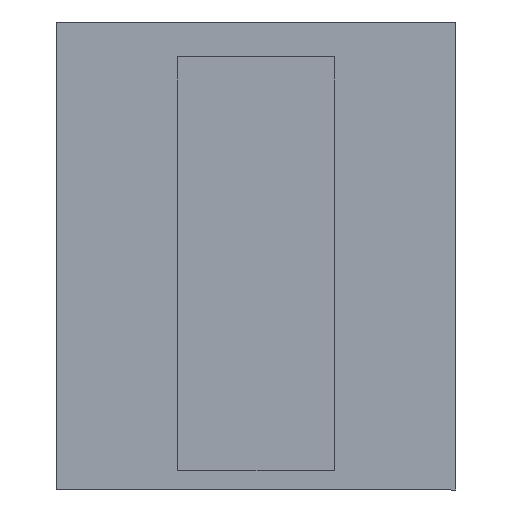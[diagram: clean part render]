
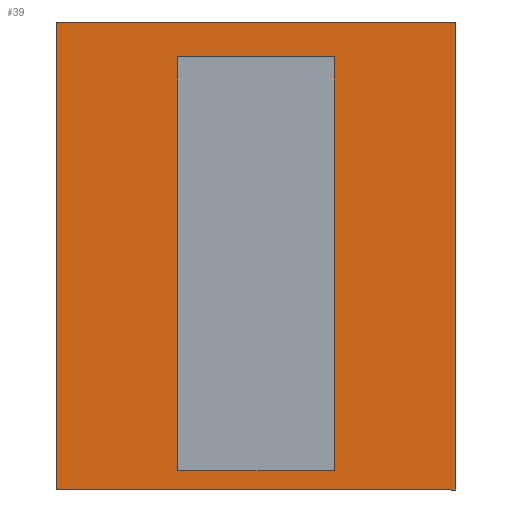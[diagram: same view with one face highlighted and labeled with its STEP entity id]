
A CAD part, left-side view. The second image highlights one B-rep face of the part: STEP entity #39.
In plain terms, the highlighted planar face has unit normal (-1, 0, 0).
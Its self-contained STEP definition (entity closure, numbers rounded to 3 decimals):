
#2 = VECTOR ( 'NONE', #12, 1000. ) ;
#3 = VECTOR ( 'NONE', #5, 1000. ) ;
#5 = DIRECTION ( 'NONE',  ( 0., 1., 0. ) ) ;
#6 = CARTESIAN_POINT ( 'NONE',  ( -22.05, 5.5, 36. ) ) ;
#7 = DIRECTION ( 'NONE',  ( 0., 0., -1. ) ) ;
#12 = DIRECTION ( 'NONE',  ( 0., 0., -1. ) ) ;
#14 = CARTESIAN_POINT ( 'NONE',  ( -22.05, 14., 36. ) ) ;
#20 = LINE ( 'NONE', #207, #317 ) ;
#31 = VECTOR ( 'NONE', #213, 1000. ) ;
#38 = CARTESIAN_POINT ( 'NONE',  ( -22.05, -5.5, 37.35 ) ) ;
#39 = ADVANCED_FACE ( 'NONE', ( #141, #125 ), #388, .T. ) ;
#41 = LINE ( 'NONE', #6, #2 ) ;
#45 = LINE ( 'NONE', #315, #3 ) ;
#46 = CARTESIAN_POINT ( 'NONE',  ( -22.05, -5.5, 66.35 ) ) ;
#47 = LINE ( 'NONE', #14, #31 ) ;
#54 = ORIENTED_EDGE ( 'NONE', *, *, #266, .T. ) ;
#55 = CARTESIAN_POINT ( 'NONE',  ( -22.05, 14., 68.8 ) ) ;
#69 = VECTOR ( 'NONE', #269, 1000. ) ;
#80 = VECTOR ( 'NONE', #138, 1000. ) ;
#91 = CARTESIAN_POINT ( 'NONE',  ( -22.05, 5.5, 66.35 ) ) ;
#104 = CARTESIAN_POINT ( 'NONE',  ( -22.05, -14., 36. ) ) ;
#116 = DIRECTION ( 'NONE',  ( 0., 0., -1. ) ) ;
#124 = CARTESIAN_POINT ( 'NONE',  ( -22.05, -5.5, 37.35 ) ) ;
#125 = FACE_BOUND ( 'NONE', #256, .T. ) ;
#138 = DIRECTION ( 'NONE',  ( 0., 0., -1. ) ) ;
#141 = FACE_OUTER_BOUND ( 'NONE', #242, .T. ) ;
#150 = LINE ( 'NONE', #124, #69 ) ;
#162 = LINE ( 'NONE', #183, #215 ) ;
#169 = VERTEX_POINT ( 'NONE', #104 ) ;
#177 = ORIENTED_EDGE ( 'NONE', *, *, #250, .F. ) ;
#183 = CARTESIAN_POINT ( 'NONE',  ( -22.05, 14., 68.8 ) ) ;
#187 = EDGE_CURVE ( 'NONE', #249, #169, #47, .T. ) ;
#190 = LINE ( 'NONE', #232, #346 ) ;
#197 = ORIENTED_EDGE ( 'NONE', *, *, #324, .T. ) ;
#207 = CARTESIAN_POINT ( 'NONE',  ( -22.05, -5.5, 36. ) ) ;
#213 = DIRECTION ( 'NONE',  ( 0., -1., 0. ) ) ;
#215 = VECTOR ( 'NONE', #262, 1000. ) ;
#221 = VERTEX_POINT ( 'NONE', #55 ) ;
#232 = CARTESIAN_POINT ( 'NONE',  ( -22.05, 14., 36. ) ) ;
#234 = EDGE_CURVE ( 'NONE', #329, #385, #41, .T. ) ;
#242 = EDGE_LOOP ( 'NONE', ( #417, #410, #282, #359 ) ) ;
#249 = VERTEX_POINT ( 'NONE', #322 ) ;
#250 = EDGE_CURVE ( 'NONE', #301, #329, #45, .T. ) ;
#256 = EDGE_LOOP ( 'NONE', ( #54, #197, #285, #177 ) ) ;
#262 = DIRECTION ( 'NONE',  ( 0., -1., 0. ) ) ;
#266 = EDGE_CURVE ( 'NONE', #301, #435, #20, .T. ) ;
#269 = DIRECTION ( 'NONE',  ( 0., 1., 0. ) ) ;
#282 = ORIENTED_EDGE ( 'NONE', *, *, #423, .T. ) ;
#285 = ORIENTED_EDGE ( 'NONE', *, *, #234, .F. ) ;
#297 = AXIS2_PLACEMENT_3D ( 'NONE', #378, #355, #354 ) ;
#300 = VERTEX_POINT ( 'NONE', #436 ) ;
#301 = VERTEX_POINT ( 'NONE', #46 ) ;
#310 = EDGE_CURVE ( 'NONE', #221, #300, #162, .T. ) ;
#315 = CARTESIAN_POINT ( 'NONE',  ( -22.05, -5.5, 66.35 ) ) ;
#317 = VECTOR ( 'NONE', #116, 1000. ) ;
#322 = CARTESIAN_POINT ( 'NONE',  ( -22.05, 14., 36. ) ) ;
#324 = EDGE_CURVE ( 'NONE', #435, #385, #150, .T. ) ;
#329 = VERTEX_POINT ( 'NONE', #91 ) ;
#346 = VECTOR ( 'NONE', #7, 1000. ) ;
#347 = CARTESIAN_POINT ( 'NONE',  ( -22.05, -14., 36. ) ) ;
#354 = DIRECTION ( 'NONE',  ( 0., 0., 1. ) ) ;
#355 = DIRECTION ( 'NONE',  ( -1., 0., 0. ) ) ;
#359 = ORIENTED_EDGE ( 'NONE', *, *, #187, .T. ) ;
#364 = EDGE_CURVE ( 'NONE', #300, #169, #387, .T. ) ;
#378 = CARTESIAN_POINT ( 'NONE',  ( -22.05, 14., 36. ) ) ;
#385 = VERTEX_POINT ( 'NONE', #389 ) ;
#387 = LINE ( 'NONE', #347, #80 ) ;
#388 = PLANE ( 'NONE',  #297 ) ;
#389 = CARTESIAN_POINT ( 'NONE',  ( -22.05, 5.5, 37.35 ) ) ;
#410 = ORIENTED_EDGE ( 'NONE', *, *, #310, .F. ) ;
#417 = ORIENTED_EDGE ( 'NONE', *, *, #364, .F. ) ;
#423 = EDGE_CURVE ( 'NONE', #221, #249, #190, .T. ) ;
#435 = VERTEX_POINT ( 'NONE', #38 ) ;
#436 = CARTESIAN_POINT ( 'NONE',  ( -22.05, -14., 68.8 ) ) ;
